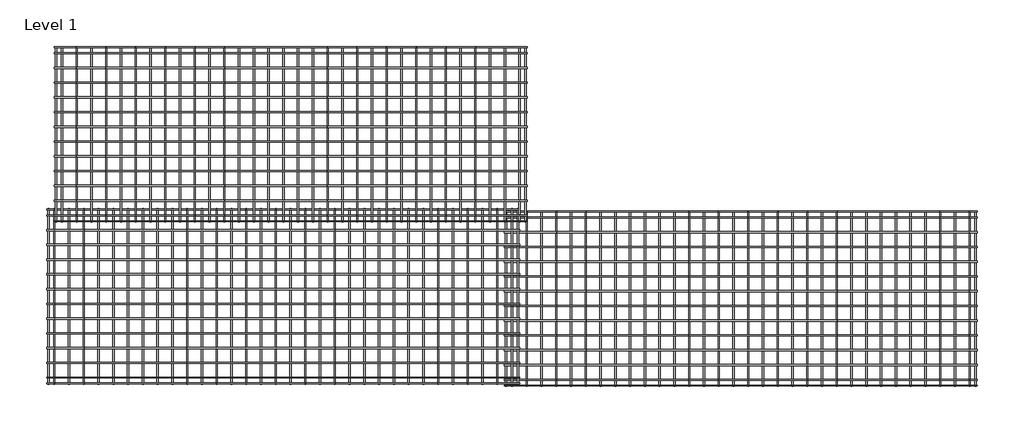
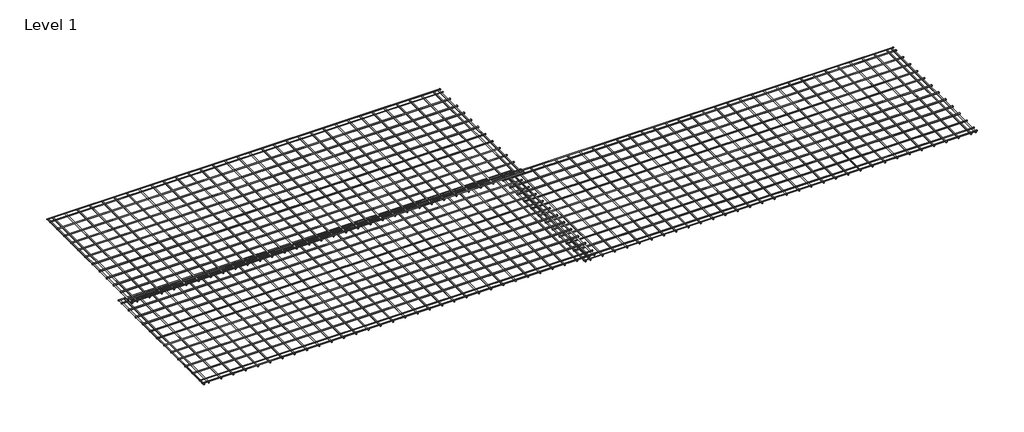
# One storey: 3 proxies.
"""IFC4 building model written with IfcOpenShell, lengths in millimetres."""

from ifc_helpers import new_model, si_unit, origin, place, context, project, spatial, transform, mapped, element, save
from components import united_steel_se92_double_mesh_united_steel_se92_double_mesh_89cb056f

model = new_model("IFC4")

# Units and contexts
model_context = context("Model", 3, world=origin())
ifc_project = project(units=[si_unit("LENGTHUNIT", "METRE", prefix="MILLI")], contexts=[model_context])

# Site, building, storey
site = spatial("IfcSite", under=ifc_project)
building = spatial("IfcBuilding", under=site)
storey = spatial("IfcBuildingStorey", under=building, Name="Level 1", Elevation=0.0)

# Proxies
placement = place(None, origin())
united_steel_se92_double_mesh_united_steel_se92_double_mesh_shape = united_steel_se92_double_mesh_united_steel_se92_double_mesh_89cb056f(model_context)
element("IfcBuildingElementProxy", 1, Name="United Steel SE92 Double Mesh : United Steel SE92 Double Mesh", ObjectType="United Steel SE92 Double Mesh : United Steel SE92 Double Mesh", at=placement, inside=storey, context=model_context, shape_type="MappedRepresentation", body=[
    mapped(united_steel_se92_double_mesh_united_steel_se92_double_mesh_shape, transform((4431.195054, 2171.3157499, 98.125), x_axis=(1.0, 0.0, 0.0), y_axis=(0.0, 1.0, 0.0), z_axis=(0.0, 0.0, 1.0))),
])
element("IfcBuildingElementProxy", 2, Name="United Steel SE92 Double Mesh : United Steel SE92 Double Mesh", ObjectType="United Steel SE92 Double Mesh : United Steel SE92 Double Mesh", at=placement, inside=storey, context=model_context, shape_type="MappedRepresentation", body=[
    mapped(united_steel_se92_double_mesh_united_steel_se92_double_mesh_shape, transform((4534.3856589, 4371.2261808, 127.96875), x_axis=(1.0, 0.0, 0.0), y_axis=(0.0, 1.0, 0.0), z_axis=(0.0, 0.0, 1.0))),
])
element("IfcBuildingElementProxy", 3, Name="United Steel SE92 Double Mesh : United Steel SE92 Double Mesh", ObjectType="United Steel SE92 Double Mesh : United Steel SE92 Double Mesh", at=placement, inside=storey, context=model_context, shape_type="MappedRepresentation", body=[
    mapped(united_steel_se92_double_mesh_united_steel_se92_double_mesh_shape, transform((10631.1955059, 2142.5757703, 62.5585937), x_axis=(1.0, 0.0, 0.0), y_axis=(0.0, 1.0, 0.0), z_axis=(0.0, 0.0, 1.0))),
])

save(model, "model.ifc")
